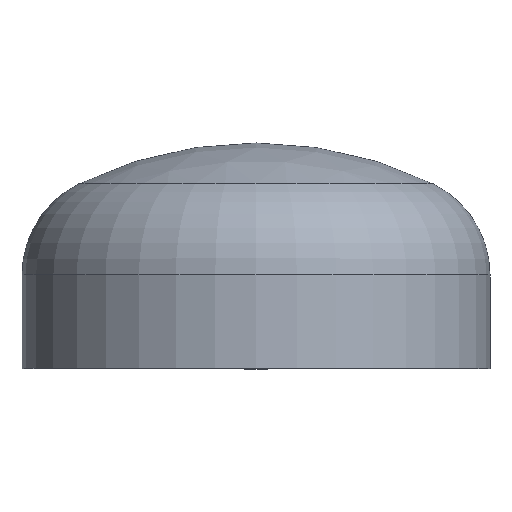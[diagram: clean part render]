
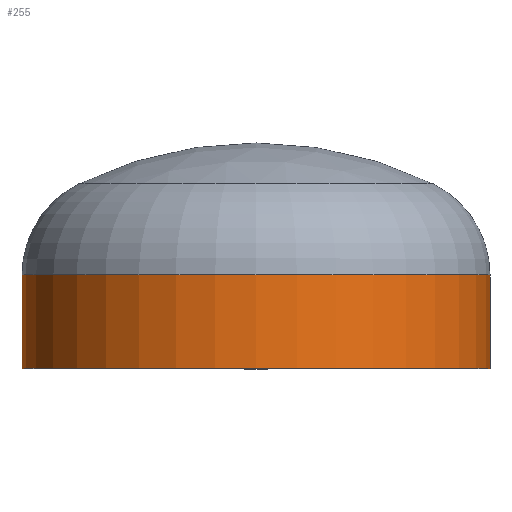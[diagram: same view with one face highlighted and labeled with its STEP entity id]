
A CAD part, top view. The second image highlights one B-rep face of the part: STEP entity #255.
In plain terms, the highlighted cylindrical face has radius 300 mm (diameter 600 mm), a partial arc.
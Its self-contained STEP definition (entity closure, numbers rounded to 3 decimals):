
#3 = ORIENTED_EDGE ( 'NONE', *, *, #364, .T. ) ;
#4 = VERTEX_POINT ( 'NONE', #214 ) ;
#12 = EDGE_LOOP ( 'NONE', ( #88, #3, #122, #42 ) ) ;
#14 = AXIS2_PLACEMENT_3D ( 'NONE', #182, #192, #18 ) ;
#18 = DIRECTION ( 'NONE',  ( 1., 0., 0. ) ) ;
#42 = ORIENTED_EDGE ( 'NONE', *, *, #377, .F. ) ;
#45 = VERTEX_POINT ( 'NONE', #125 ) ;
#74 = VECTOR ( 'NONE', #195, 1000. ) ;
#88 = ORIENTED_EDGE ( 'NONE', *, *, #140, .T. ) ;
#91 = VERTEX_POINT ( 'NONE', #274 ) ;
#111 = CIRCLE ( 'NONE', #375, 300. ) ;
#117 = AXIS2_PLACEMENT_3D ( 'NONE', #245, #190, #187 ) ;
#122 = ORIENTED_EDGE ( 'NONE', *, *, #360, .F. ) ;
#125 = CARTESIAN_POINT ( 'NONE',  ( 300., 0., 0. ) ) ;
#139 = DIRECTION ( 'NONE',  ( 0., -1., 0. ) ) ;
#140 = EDGE_CURVE ( 'NONE', #91, #4, #191, .T. ) ;
#176 = CARTESIAN_POINT ( 'NONE',  ( -300., 0., 0. ) ) ;
#182 = CARTESIAN_POINT ( 'NONE',  ( 0., 0., 0. ) ) ;
#186 = VECTOR ( 'NONE', #273, 1000. ) ;
#187 = DIRECTION ( 'NONE',  ( 1., 0., 0. ) ) ;
#190 = DIRECTION ( 'NONE',  ( 0., -1., 0. ) ) ;
#191 = CIRCLE ( 'NONE', #117, 300. ) ;
#192 = DIRECTION ( 'NONE',  ( 0., -1., 0. ) ) ;
#195 = DIRECTION ( 'NONE',  ( 0., -1., 0. ) ) ;
#199 = VERTEX_POINT ( 'NONE', #176 ) ;
#214 = CARTESIAN_POINT ( 'NONE',  ( -300., 120., 0. ) ) ;
#245 = CARTESIAN_POINT ( 'NONE',  ( 0., 120., 0. ) ) ;
#254 = LINE ( 'NONE', #403, #186 ) ;
#255 = ADVANCED_FACE ( 'NONE', ( #404 ), #284, .T. ) ;
#261 = LINE ( 'NONE', #365, #74 ) ;
#273 = DIRECTION ( 'NONE',  ( 0., -1., 0. ) ) ;
#274 = CARTESIAN_POINT ( 'NONE',  ( 300., 120., 0. ) ) ;
#284 = CYLINDRICAL_SURFACE ( 'NONE', #14, 300. ) ;
#292 = CARTESIAN_POINT ( 'NONE',  ( 0., 0., 0. ) ) ;
#316 = DIRECTION ( 'NONE',  ( 1., 0., 0. ) ) ;
#360 = EDGE_CURVE ( 'NONE', #45, #199, #111, .T. ) ;
#364 = EDGE_CURVE ( 'NONE', #4, #199, #261, .T. ) ;
#365 = CARTESIAN_POINT ( 'NONE',  ( -300., 0., 0. ) ) ;
#375 = AXIS2_PLACEMENT_3D ( 'NONE', #292, #139, #316 ) ;
#377 = EDGE_CURVE ( 'NONE', #91, #45, #254, .T. ) ;
#403 = CARTESIAN_POINT ( 'NONE',  ( 300., 0., 0. ) ) ;
#404 = FACE_OUTER_BOUND ( 'NONE', #12, .T. ) ;
